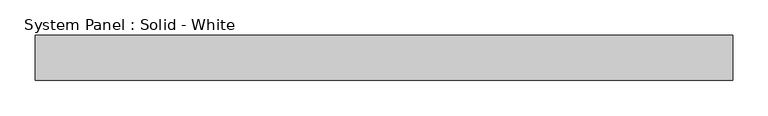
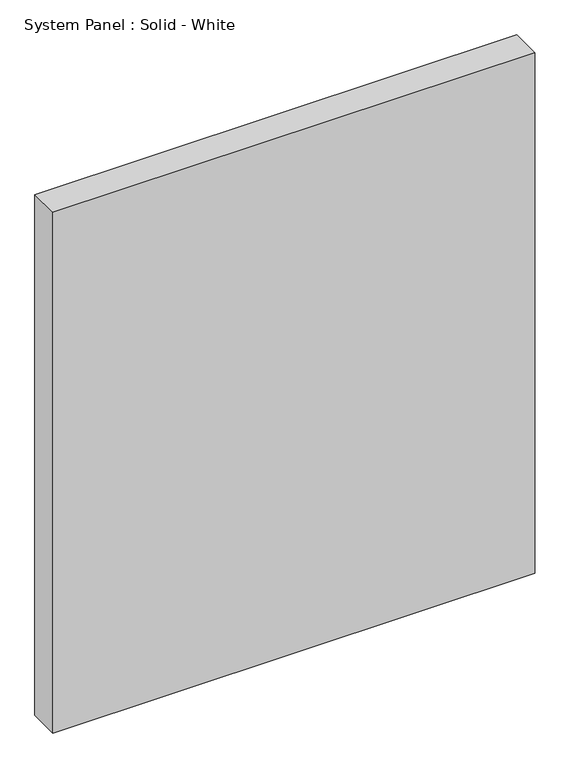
"""IFC4 building model written with IfcOpenShell, lengths in millimetres: plate geometry, System Panel : Solid - White."""

from ifc_helpers import new_model, si_unit, origin, origin_with_axes, place, context, project, spatial, polyline, outline, extrude, source, transform, mapped, element, save


def system_panel_solid_white_ea00ccfe(model_context):
    return source(origin(), model_context, "Body", "SweptSolid", [
        extrude(outline(polyline([(492.1249999, -19.05), (-492.1249999, -19.05), (-492.1249999, 44.45), (492.1249999, 44.45), (492.1249999, -19.05)])), origin_with_axes(), (0.0, 0.0, 1.0), 1123.95),
    ])


if __name__ == "__main__":
    model = new_model("IFC4")
    model_context = context("Model", 3, world=origin())
    ifc_project = project(units=[si_unit("LENGTHUNIT", "METRE", prefix="MILLI")], contexts=[model_context])
    site = spatial("IfcSite", under=ifc_project)
    building = spatial("IfcBuilding", under=site)
    placement = place(None, origin())
    system_panel_solid_white_shape = system_panel_solid_white_ea00ccfe(model_context)
    element("IfcPlate", 1, ObjectType="System Panel : Solid - White", at=placement, inside=building, context=model_context, shape_type="MappedRepresentation", body=[
        mapped(system_panel_solid_white_shape, transform((0.0, 0.0, 0.0), x_axis=(1.0, 0.0, 0.0), y_axis=(0.0, 1.0, 0.0), z_axis=(0.0, 0.0, 1.0))),
    ])
    save(model, "model.ifc")
